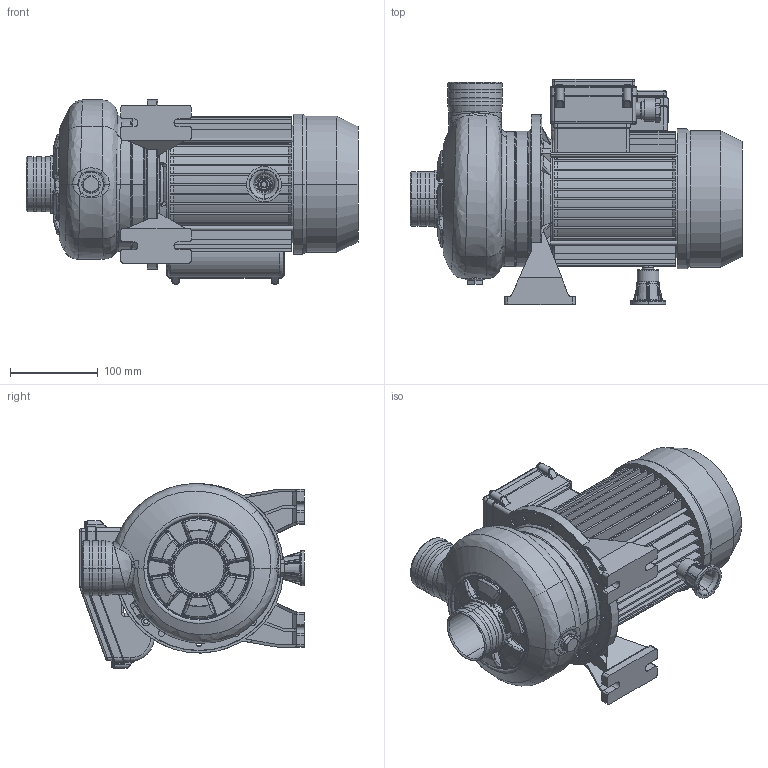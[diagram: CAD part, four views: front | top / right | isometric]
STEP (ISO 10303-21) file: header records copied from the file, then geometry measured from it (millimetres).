
FILE_DESCRIPTION((''),'2;1');
FILE_NAME('DWO_200M_ASM','2017-12-20T',('rosa'),('"Ebara Pumps Europe +39.444.706811"'),'PRO/ENGINEER BY PARAMETRIC TECHNOLOGY CORPORATION, 2012130','PRO/ENGINEER BY PARAMETRIC TECHNOLOGY CORPORATION, 2012130','');
FILE_SCHEMA(('AUTOMOTIVE_DESIGN { 1 0 10303 214 1 1 1 1 }'));
Length unit declared in the file: millimetre
Products named in the file (13): MEC_80_PACCO110_120_MONOFASE; 80596; 251420990; 62036; 62035; 10053; 76006; 40032; 20992_ASM; 72011; 72028; COPRIMORSETTIERA_MEC80_90_M; DWO_200M_ASM
Assembly tree (14 placements, depth 3):
  DWO_200M_ASM
    MEC_80_PACCO110_120_MONOFASE
    80596
    20992_ASM
      251420990
      62036
      62035
      10053
      76006  x2
      40032  x2
    72011
    72028
    COPRIMORSETTIERA_MEC80_90_M
Bounding box: 378 x 256 x 210.45 mm (x, y, z)
Volume: 3434832 mm3; surface area: 726109.9 mm2
Topology: 13 solids, 13 shells, 1570 faces, 3784 edges, 2268 vertices
Faces by surface type: plane 473, cylinder 413, bspline 314, torus 193, cone 149, sphere 24, extrusion 4
Entity records: 76383 total; most frequent: CARTESIAN_POINT 28829, ORIENTED_EDGE 7436, DIRECTION 6789, EDGE_CURVE 3718, PRESENTATION_STYLE_ASSIGNMENT 3672, STYLED_ITEM 3672, CURVE_STYLE 3662, AXIS2_PLACEMENT_3D 2755
